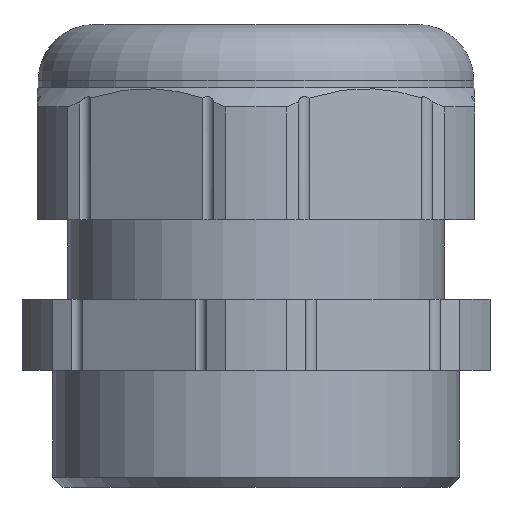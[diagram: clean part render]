
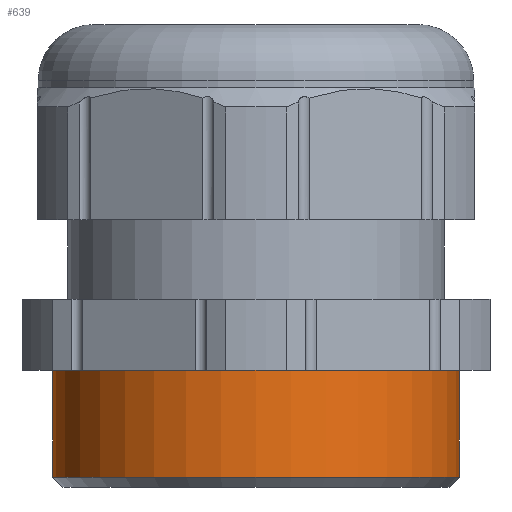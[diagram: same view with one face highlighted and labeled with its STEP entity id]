
A CAD part, front view. The second image highlights one B-rep face of the part: STEP entity #639.
In plain terms, the highlighted cylindrical face has radius 20 mm (diameter 40 mm), a partial arc.
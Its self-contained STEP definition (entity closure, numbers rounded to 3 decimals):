
#281 = VERTEX_POINT ( 'NONE', #2150 ) ;
#282 = VERTEX_POINT ( 'NONE', #2149 ) ;
#284 = EDGE_CURVE ( 'NONE', #282, #285, #2148, .T. ) ;
#285 = VERTEX_POINT ( 'NONE', #2144 ) ;
#288 = VERTEX_POINT ( 'NONE', #2138 ) ;
#290 = EDGE_CURVE ( 'NONE', #281, #288, #2137, .T. ) ;
#555 = EDGE_CURVE ( 'NONE', #282, #281, #2644, .T. ) ;
#556 = ORIENTED_EDGE ( 'NONE', *, *, #290, .T. ) ;
#620 = ORIENTED_EDGE ( 'NONE', *, *, #638, .F. ) ;
#638 = EDGE_CURVE ( 'NONE', #285, #288, #2905, .T. ) ;
#639 = ADVANCED_FACE ( 'NONE', ( #2900 ), #2899, .T. ) ;
#640 = EDGE_LOOP ( 'NONE', ( #641, #642, #556, #620 ) ) ;
#641 = ORIENTED_EDGE ( 'NONE', *, *, #284, .F. ) ;
#642 = ORIENTED_EDGE ( 'NONE', *, *, #555, .T. ) ;
#2134 = DIRECTION ( 'NONE',  ( 0., 0., -1. ) ) ;
#2135 = VECTOR ( 'NONE', #2134, 1000. ) ;
#2136 = CARTESIAN_POINT ( 'NONE',  ( -20., 0., 0. ) ) ;
#2137 = LINE ( 'NONE', #2136, #2135 ) ;
#2138 = CARTESIAN_POINT ( 'NONE',  ( -20., 0., 1. ) ) ;
#2144 = CARTESIAN_POINT ( 'NONE',  ( 20., 0., 1. ) ) ;
#2145 = DIRECTION ( 'NONE',  ( 0., 0., -1. ) ) ;
#2146 = VECTOR ( 'NONE', #2145, 1000. ) ;
#2147 = CARTESIAN_POINT ( 'NONE',  ( 20., 0., 0. ) ) ;
#2148 = LINE ( 'NONE', #2147, #2146 ) ;
#2149 = CARTESIAN_POINT ( 'NONE',  ( 20., 0., 11.5 ) ) ;
#2150 = CARTESIAN_POINT ( 'NONE',  ( -20., 0., 11.5 ) ) ;
#2640 = DIRECTION ( 'NONE',  ( -1., 0., 0. ) ) ;
#2641 = DIRECTION ( 'NONE',  ( 0., 0., -1. ) ) ;
#2642 = CARTESIAN_POINT ( 'NONE',  ( 0., 0., 11.5 ) ) ;
#2643 = AXIS2_PLACEMENT_3D ( 'NONE', #2642, #2641, #2640 ) ;
#2644 = CIRCLE ( 'NONE', #2643, 20. ) ;
#2894 = DIRECTION ( 'NONE',  ( -1., 0., 0. ) ) ;
#2895 = DIRECTION ( 'NONE',  ( 0., 0., -1. ) ) ;
#2896 = CARTESIAN_POINT ( 'NONE',  ( 0., 0., 0. ) ) ;
#2897 = AXIS2_PLACEMENT_3D ( 'NONE', #2896, #2895, #2894 ) ;
#2899 = CYLINDRICAL_SURFACE ( 'NONE', #2897, 20. ) ;
#2900 = FACE_OUTER_BOUND ( 'NONE', #640, .T. ) ;
#2901 = DIRECTION ( 'NONE',  ( -1., 0., 0. ) ) ;
#2902 = DIRECTION ( 'NONE',  ( 0., 0., -1. ) ) ;
#2903 = CARTESIAN_POINT ( 'NONE',  ( 0., 0., 1. ) ) ;
#2904 = AXIS2_PLACEMENT_3D ( 'NONE', #2903, #2902, #2901 ) ;
#2905 = CIRCLE ( 'NONE', #2904, 20. ) ;
